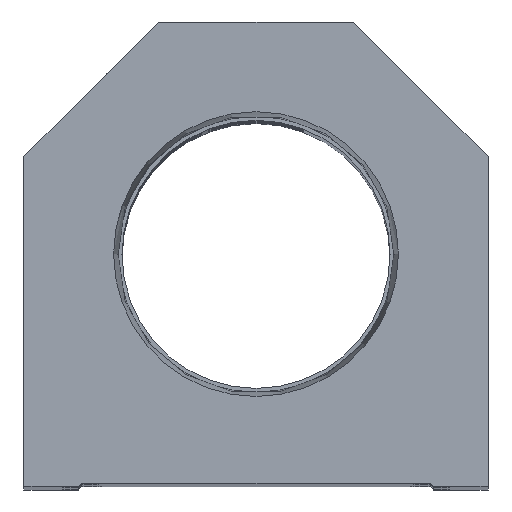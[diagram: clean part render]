
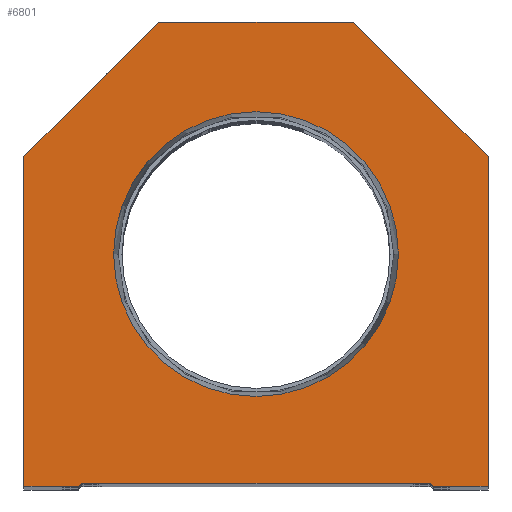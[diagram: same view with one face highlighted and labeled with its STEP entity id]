
A CAD part, top view. The second image highlights one B-rep face of the part: STEP entity #6801.
In plain terms, the highlighted planar face has unit normal (0, 0, 1).
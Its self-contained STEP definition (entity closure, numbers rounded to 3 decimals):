
#84 = EDGE_CURVE ( 'NONE', #133, #1206, #10313, .T. ) ;
#133 = VERTEX_POINT ( 'NONE', #18993 ) ;
#249 = CARTESIAN_POINT ( 'NONE',  ( -38.1, 0., 0. ) ) ;
#303 = CARTESIAN_POINT ( 'NONE',  ( 16., 76.2, 0. ) ) ;
#367 = DIRECTION ( 'NONE',  ( 0., 1., 0. ) ) ;
#740 = EDGE_LOOP ( 'NONE', ( #1283, #16823 ) ) ;
#743 = CARTESIAN_POINT ( 'NONE',  ( 0., 38.1, 0. ) ) ;
#1206 = VERTEX_POINT ( 'NONE', #19489 ) ;
#1256 = VERTEX_POINT ( 'NONE', #19707 ) ;
#1283 = ORIENTED_EDGE ( 'NONE', *, *, #19438, .F. ) ;
#1459 = VECTOR ( 'NONE', #4737, 1000. ) ;
#1925 = ORIENTED_EDGE ( 'NONE', *, *, #8652, .T. ) ;
#2008 = VERTEX_POINT ( 'NONE', #16337 ) ;
#2010 = EDGE_CURVE ( 'NONE', #1206, #2008, #2758, .T. ) ;
#2022 = CIRCLE ( 'NONE', #13336, 23.374 ) ;
#2451 = ORIENTED_EDGE ( 'NONE', *, *, #84, .T. ) ;
#2476 = DIRECTION ( 'NONE',  ( -1., 0., 0. ) ) ;
#2758 = LINE ( 'NONE', #7267, #1459 ) ;
#2787 = LINE ( 'NONE', #7409, #10490 ) ;
#2949 = DIRECTION ( 'NONE',  ( 1., 0., 0. ) ) ;
#3130 = AXIS2_PLACEMENT_3D ( 'NONE', #13994, #14771, #17997 ) ;
#3159 = ORIENTED_EDGE ( 'NONE', *, *, #14797, .T. ) ;
#3395 = CARTESIAN_POINT ( 'NONE',  ( 14.55, 14.55, 0. ) ) ;
#3506 = FACE_OUTER_BOUND ( 'NONE', #13019, .T. ) ;
#3599 = VERTEX_POINT ( 'NONE', #303 ) ;
#3767 = VECTOR ( 'NONE', #367, 1000. ) ;
#4145 = LINE ( 'NONE', #10915, #20676 ) ;
#4185 = LINE ( 'NONE', #21208, #16536 ) ;
#4734 = EDGE_CURVE ( 'NONE', #16940, #21538, #16265, .T. ) ;
#4737 = DIRECTION ( 'NONE',  ( 1., 0., 0. ) ) ;
#4961 = CARTESIAN_POINT ( 'NONE',  ( 28.6, 0., 0. ) ) ;
#5013 = VECTOR ( 'NONE', #2949, 1000. ) ;
#5058 = ORIENTED_EDGE ( 'NONE', *, *, #10584, .T. ) ;
#5086 = VECTOR ( 'NONE', #5768, 1000. ) ;
#5611 = ORIENTED_EDGE ( 'NONE', *, *, #13696, .T. ) ;
#5768 = DIRECTION ( 'NONE',  ( -0.707, -0.707, 0. ) ) ;
#5928 = ORIENTED_EDGE ( 'NONE', *, *, #21059, .T. ) ;
#6087 = CARTESIAN_POINT ( 'NONE',  ( -38.1, 54.1, 0. ) ) ;
#6139 = VERTEX_POINT ( 'NONE', #249 ) ;
#6457 = DIRECTION ( 'NONE',  ( 1., 0., 0. ) ) ;
#6677 = PLANE ( 'NONE',  #19269 ) ;
#6801 = ADVANCED_FACE ( 'NONE', ( #16862, #3506 ), #6677, .T. ) ;
#7153 = DIRECTION ( 'NONE',  ( 0., 0., 1. ) ) ;
#7266 = ORIENTED_EDGE ( 'NONE', *, *, #2010, .T. ) ;
#7267 = CARTESIAN_POINT ( 'NONE',  ( -28.6, 0.5, 0. ) ) ;
#7409 = CARTESIAN_POINT ( 'NONE',  ( 38.1, 54.1, 0. ) ) ;
#7501 = DIRECTION ( 'NONE',  ( 1., 0., 0. ) ) ;
#8028 = LINE ( 'NONE', #9823, #5013 ) ;
#8076 = VERTEX_POINT ( 'NONE', #18504 ) ;
#8282 = DIRECTION ( 'NONE',  ( 1., 0., 0. ) ) ;
#8652 = EDGE_CURVE ( 'NONE', #21538, #6139, #4185, .T. ) ;
#8812 = CARTESIAN_POINT ( 'NONE',  ( 38.1, 0., 0. ) ) ;
#8921 = LINE ( 'NONE', #8812, #3767 ) ;
#9823 = CARTESIAN_POINT ( 'NONE',  ( -28.6, 0., 0. ) ) ;
#10028 = EDGE_CURVE ( 'NONE', #2008, #15883, #15393, .T. ) ;
#10049 = CARTESIAN_POINT ( 'NONE',  ( 0., 0., 0. ) ) ;
#10313 = LINE ( 'NONE', #21317, #14845 ) ;
#10490 = VECTOR ( 'NONE', #16365, 1000. ) ;
#10584 = EDGE_CURVE ( 'NONE', #16105, #3599, #2787, .T. ) ;
#10915 = CARTESIAN_POINT ( 'NONE',  ( 16., 76.2, 0. ) ) ;
#11716 = DIRECTION ( 'NONE',  ( 0., 0., 1. ) ) ;
#13019 = EDGE_LOOP ( 'NONE', ( #3159, #2451, #7266, #21287, #5928, #19739, #5058, #5611, #19651, #1925 ) ) ;
#13336 = AXIS2_PLACEMENT_3D ( 'NONE', #743, #7153, #7501 ) ;
#13696 = EDGE_CURVE ( 'NONE', #3599, #16940, #4145, .T. ) ;
#13994 = CARTESIAN_POINT ( 'NONE',  ( 0., 38.1, 0. ) ) ;
#14771 = DIRECTION ( 'NONE',  ( 0., 0., 1. ) ) ;
#14797 = EDGE_CURVE ( 'NONE', #6139, #133, #8028, .T. ) ;
#14845 = VECTOR ( 'NONE', #17445, 1000. ) ;
#15341 = CARTESIAN_POINT ( 'NONE',  ( -16., 76.2, 0. ) ) ;
#15393 = LINE ( 'NONE', #3395, #16175 ) ;
#15883 = VERTEX_POINT ( 'NONE', #21081 ) ;
#16105 = VERTEX_POINT ( 'NONE', #19028 ) ;
#16175 = VECTOR ( 'NONE', #21876, 1000. ) ;
#16265 = LINE ( 'NONE', #6087, #5086 ) ;
#16310 = DIRECTION ( 'NONE',  ( 0., -1., 0. ) ) ;
#16337 = CARTESIAN_POINT ( 'NONE',  ( 28.6, 0.5, 0. ) ) ;
#16365 = DIRECTION ( 'NONE',  ( -0.707, 0.707, 0. ) ) ;
#16536 = VECTOR ( 'NONE', #16310, 1000. ) ;
#16659 = VERTEX_POINT ( 'NONE', #21903 ) ;
#16823 = ORIENTED_EDGE ( 'NONE', *, *, #20950, .F. ) ;
#16862 = FACE_BOUND ( 'NONE', #740, .T. ) ;
#16940 = VERTEX_POINT ( 'NONE', #15341 ) ;
#16985 = CIRCLE ( 'NONE', #3130, 23.374 ) ;
#17345 = VECTOR ( 'NONE', #8282, 1000. ) ;
#17420 = EDGE_CURVE ( 'NONE', #8076, #16105, #8921, .T. ) ;
#17445 = DIRECTION ( 'NONE',  ( 0.707, 0.707, 0. ) ) ;
#17810 = CARTESIAN_POINT ( 'NONE',  ( -38.1, 54.1, 0. ) ) ;
#17997 = DIRECTION ( 'NONE',  ( 1., 0., 0. ) ) ;
#18423 = LINE ( 'NONE', #4961, #17345 ) ;
#18504 = CARTESIAN_POINT ( 'NONE',  ( 38.1, 0., 0. ) ) ;
#18993 = CARTESIAN_POINT ( 'NONE',  ( -29.1, 0., 0. ) ) ;
#19028 = CARTESIAN_POINT ( 'NONE',  ( 38.1, 54.1, 0. ) ) ;
#19269 = AXIS2_PLACEMENT_3D ( 'NONE', #10049, #11716, #6457 ) ;
#19438 = EDGE_CURVE ( 'NONE', #16659, #1256, #2022, .T. ) ;
#19489 = CARTESIAN_POINT ( 'NONE',  ( -28.6, 0.5, 0. ) ) ;
#19651 = ORIENTED_EDGE ( 'NONE', *, *, #4734, .T. ) ;
#19707 = CARTESIAN_POINT ( 'NONE',  ( -23.374, 38.1, 0. ) ) ;
#19739 = ORIENTED_EDGE ( 'NONE', *, *, #17420, .T. ) ;
#20676 = VECTOR ( 'NONE', #2476, 1000. ) ;
#20950 = EDGE_CURVE ( 'NONE', #1256, #16659, #16985, .T. ) ;
#21059 = EDGE_CURVE ( 'NONE', #15883, #8076, #18423, .T. ) ;
#21081 = CARTESIAN_POINT ( 'NONE',  ( 29.1, 0., 0. ) ) ;
#21208 = CARTESIAN_POINT ( 'NONE',  ( -38.1, 0., 0. ) ) ;
#21287 = ORIENTED_EDGE ( 'NONE', *, *, #10028, .T. ) ;
#21317 = CARTESIAN_POINT ( 'NONE',  ( -14.55, 14.55, 0. ) ) ;
#21538 = VERTEX_POINT ( 'NONE', #17810 ) ;
#21876 = DIRECTION ( 'NONE',  ( 0.707, -0.707, 0. ) ) ;
#21903 = CARTESIAN_POINT ( 'NONE',  ( 23.374, 38.1, 0. ) ) ;
